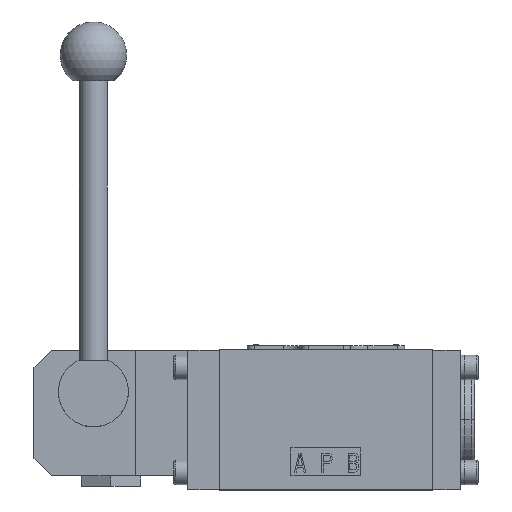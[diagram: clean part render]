
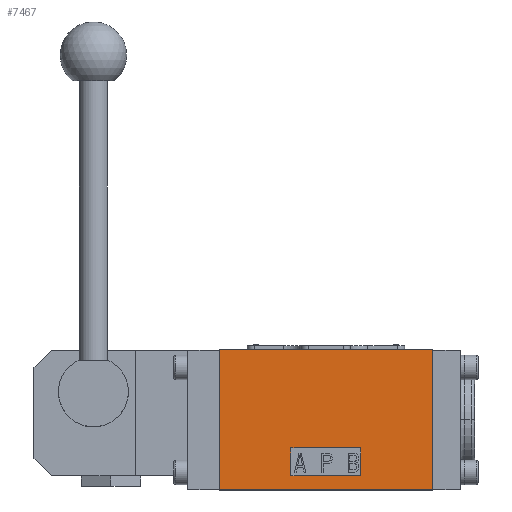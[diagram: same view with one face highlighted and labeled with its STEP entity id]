
A CAD part, top view. The second image highlights one B-rep face of the part: STEP entity #7467.
In plain terms, the highlighted planar face has unit normal (0, 0, 1).
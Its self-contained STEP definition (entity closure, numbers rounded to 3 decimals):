
#1=DIRECTION('',(0.,1.,0.));
#2=VECTOR('',#1,40.);
#3=CARTESIAN_POINT('',(-30.5,-20.,0.));
#4=LINE('',#3,#2);
#5=DIRECTION('',(1.,0.,0.));
#6=VECTOR('',#5,61.);
#7=CARTESIAN_POINT('',(-30.5,20.,0.));
#8=LINE('',#7,#6);
#9=DIRECTION('',(0.,-1.,0.));
#10=VECTOR('',#9,40.);
#11=CARTESIAN_POINT('',(30.5,20.,0.));
#12=LINE('',#11,#10);
#13=DIRECTION('',(-1.,0.,0.));
#14=VECTOR('',#13,61.);
#15=CARTESIAN_POINT('',(30.5,-20.,0.));
#16=LINE('',#15,#14);
#4752=DIRECTION('',(0.,1.,0.));
#4753=VECTOR('',#4752,8.);
#4754=CARTESIAN_POINT('',(-10.,-16.,0.));
#4755=LINE('',#4754,#4753);
#4760=DIRECTION('',(1.,0.,0.));
#4761=VECTOR('',#4760,20.);
#4762=CARTESIAN_POINT('',(-10.,-8.,0.));
#4763=LINE('',#4762,#4761);
#4768=DIRECTION('',(0.,-1.,0.));
#4769=VECTOR('',#4768,8.);
#4770=CARTESIAN_POINT('',(10.,-8.,0.));
#4771=LINE('',#4770,#4769);
#4776=DIRECTION('',(-1.,0.,0.));
#4777=VECTOR('',#4776,20.);
#4778=CARTESIAN_POINT('',(10.,-16.,0.));
#4779=LINE('',#4778,#4777);
#5688=CARTESIAN_POINT('',(-30.5,-20.,0.));
#5689=CARTESIAN_POINT('',(-30.5,20.,0.));
#5690=VERTEX_POINT('',#5688);
#5691=VERTEX_POINT('',#5689);
#5692=CARTESIAN_POINT('',(30.5,20.,0.));
#5693=VERTEX_POINT('',#5692);
#5694=CARTESIAN_POINT('',(30.5,-20.,0.));
#5695=VERTEX_POINT('',#5694);
#5696=CARTESIAN_POINT('',(-10.,-16.,0.));
#5697=CARTESIAN_POINT('',(-10.,-8.,0.));
#5698=VERTEX_POINT('',#5696);
#5699=VERTEX_POINT('',#5697);
#5700=CARTESIAN_POINT('',(10.,-16.,0.));
#5701=VERTEX_POINT('',#5700);
#5702=CARTESIAN_POINT('',(10.,-8.,0.));
#5703=VERTEX_POINT('',#5702);
#7442=CARTESIAN_POINT('',(0.,0.,0.));
#7443=DIRECTION('',(0.,0.,1.));
#7444=DIRECTION('',(1.,0.,0.));
#7445=AXIS2_PLACEMENT_3D('',#7442,#7443,#7444);
#7446=PLANE('',#7445);
#7448=ORIENTED_EDGE('',*,*,#7447,.T.);
#7450=ORIENTED_EDGE('',*,*,#7449,.T.);
#7452=ORIENTED_EDGE('',*,*,#7451,.T.);
#7454=ORIENTED_EDGE('',*,*,#7453,.T.);
#7455=EDGE_LOOP('',(#7448,#7450,#7452,#7454));
#7456=FACE_OUTER_BOUND('',#7455,.F.);
#7458=ORIENTED_EDGE('',*,*,#7457,.F.);
#7460=ORIENTED_EDGE('',*,*,#7459,.F.);
#7462=ORIENTED_EDGE('',*,*,#7461,.F.);
#7464=ORIENTED_EDGE('',*,*,#7463,.F.);
#7465=EDGE_LOOP('',(#7458,#7460,#7462,#7464));
#7466=FACE_BOUND('',#7465,.F.);
#7447=EDGE_CURVE('',#5690,#5691,#4,.T.);
#7449=EDGE_CURVE('',#5691,#5693,#8,.T.);
#7451=EDGE_CURVE('',#5693,#5695,#12,.T.);
#7453=EDGE_CURVE('',#5695,#5690,#16,.T.);
#7457=EDGE_CURVE('',#5698,#5699,#4755,.T.);
#7459=EDGE_CURVE('',#5701,#5698,#4779,.T.);
#7461=EDGE_CURVE('',#5703,#5701,#4771,.T.);
#7463=EDGE_CURVE('',#5699,#5703,#4763,.T.);
#7467=ADVANCED_FACE('',(#7456,#7466),#7446,.T.);
